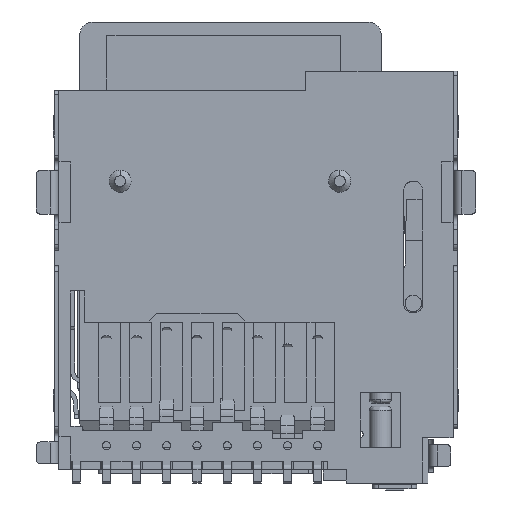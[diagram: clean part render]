
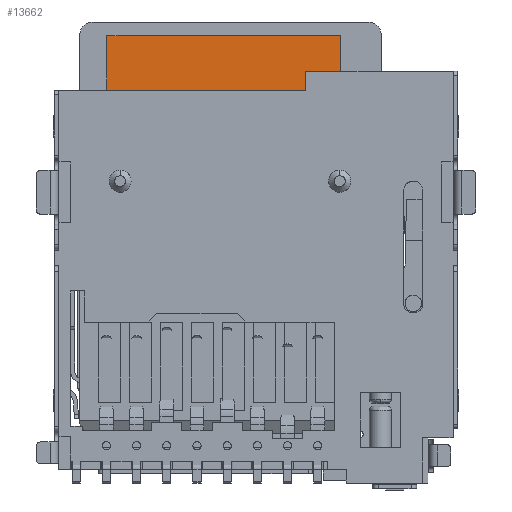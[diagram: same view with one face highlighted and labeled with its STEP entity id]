
A CAD part, front view. The second image highlights one B-rep face of the part: STEP entity #13662.
In plain terms, the highlighted planar face has unit normal (0, -1, 0).
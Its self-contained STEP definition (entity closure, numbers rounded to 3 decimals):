
#1302 = PLANE ( 'NONE',  #39809 ) ;
#2052 = CARTESIAN_POINT ( 'NONE',  ( -25.394, 5.564, 15.703 ) ) ;
#4615 = VECTOR ( 'NONE', #14123, 1000. ) ;
#6293 = CARTESIAN_POINT ( 'NONE',  ( -16.894, 5.564, 15.703 ) ) ;
#6561 = DIRECTION ( 'NONE',  ( 1., 0., 0. ) ) ;
#8442 = VERTEX_POINT ( 'NONE', #22602 ) ;
#10849 = ORIENTED_EDGE ( 'NONE', *, *, #53892, .T. ) ;
#11920 = ORIENTED_EDGE ( 'NONE', *, *, #17469, .T. ) ;
#13662 = ADVANCED_FACE ( 'NONE', ( #21947 ), #1302, .T. ) ;
#14123 = DIRECTION ( 'NONE',  ( 0., 0., -1. ) ) ;
#15444 = CARTESIAN_POINT ( 'NONE',  ( -16.894, 5.564, 10.203 ) ) ;
#17469 = EDGE_CURVE ( 'NONE', #34461, #8442, #23973, .T. ) ;
#20096 = ORIENTED_EDGE ( 'NONE', *, *, #54944, .T. ) ;
#21947 = FACE_OUTER_BOUND ( 'NONE', #38839, .T. ) ;
#22602 = CARTESIAN_POINT ( 'NONE',  ( -25.394, 5.564, 10.203 ) ) ;
#23321 = CARTESIAN_POINT ( 'NONE',  ( -25.394, 5.564, 15.703 ) ) ;
#23973 = LINE ( 'NONE', #23321, #4615 ) ;
#27913 = DIRECTION ( 'NONE',  ( -1., 0., 0. ) ) ;
#32551 = DIRECTION ( 'NONE',  ( -1., 0., 0. ) ) ;
#33461 = CARTESIAN_POINT ( 'NONE',  ( -25.394, 5.564, 15.703 ) ) ;
#34461 = VERTEX_POINT ( 'NONE', #2052 ) ;
#34997 = VERTEX_POINT ( 'NONE', #42216 ) ;
#36163 = LINE ( 'NONE', #6293, #56909 ) ;
#38182 = VECTOR ( 'NONE', #6561, 1000. ) ;
#38839 = EDGE_LOOP ( 'NONE', ( #60659, #11920, #20096, #10849 ) ) ;
#39809 = AXIS2_PLACEMENT_3D ( 'NONE', #33461, #43261, #27913 ) ;
#40377 = LINE ( 'NONE', #15444, #38182 ) ;
#42216 = CARTESIAN_POINT ( 'NONE',  ( -16.894, 5.564, 15.703 ) ) ;
#43261 = DIRECTION ( 'NONE',  ( 0., -1., 0. ) ) ;
#43622 = CARTESIAN_POINT ( 'NONE',  ( -16.894, 5.564, 15.703 ) ) ;
#45625 = EDGE_CURVE ( 'NONE', #34997, #34461, #62966, .T. ) ;
#46004 = DIRECTION ( 'NONE',  ( 0., 0., 1. ) ) ;
#46294 = VERTEX_POINT ( 'NONE', #62628 ) ;
#53892 = EDGE_CURVE ( 'NONE', #46294, #34997, #36163, .T. ) ;
#54944 = EDGE_CURVE ( 'NONE', #8442, #46294, #40377, .T. ) ;
#56909 = VECTOR ( 'NONE', #46004, 1000. ) ;
#60659 = ORIENTED_EDGE ( 'NONE', *, *, #45625, .T. ) ;
#62292 = VECTOR ( 'NONE', #32551, 1000. ) ;
#62628 = CARTESIAN_POINT ( 'NONE',  ( -16.894, 5.564, 10.203 ) ) ;
#62966 = LINE ( 'NONE', #43622, #62292 ) ;
